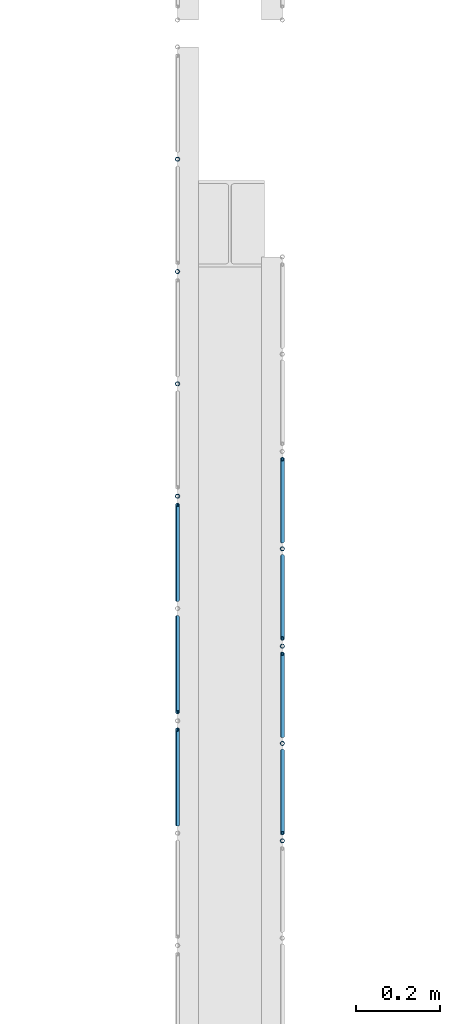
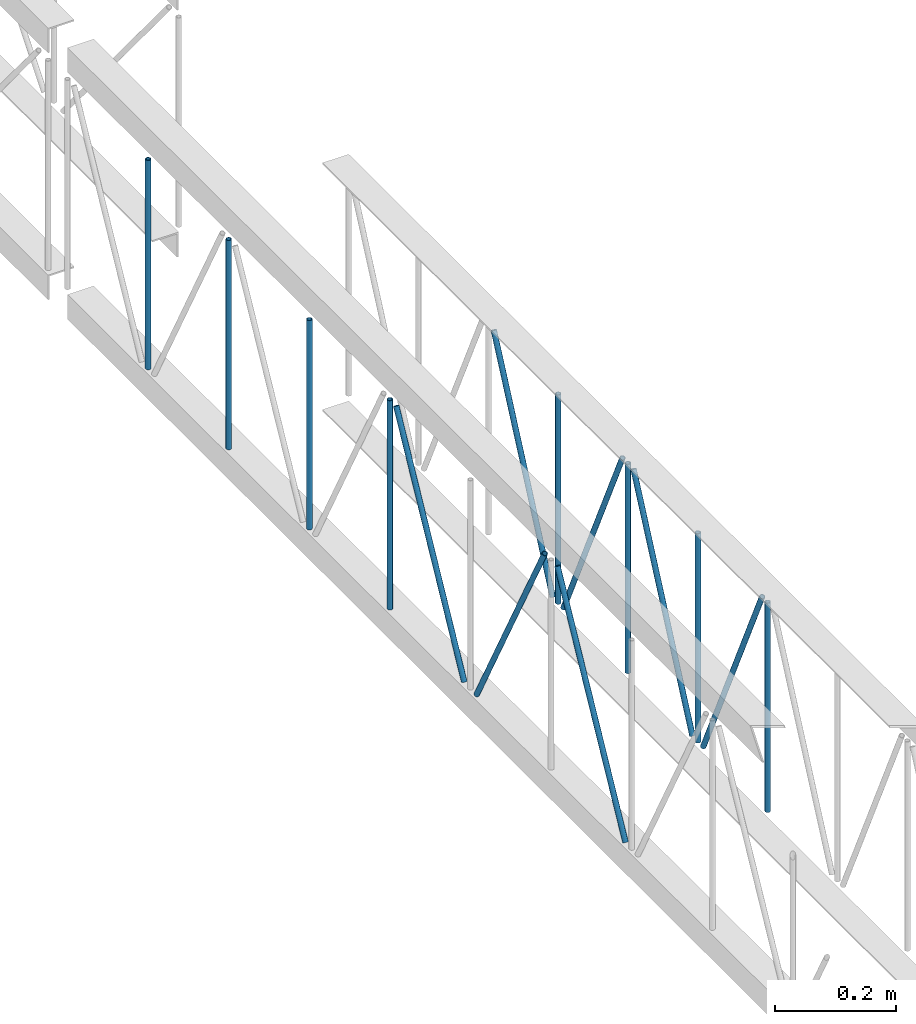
# One storey, part 41 of 153: 15 members, 2 elements without a shape of their own.
"""IFC4 building model written with IfcOpenShell, lengths in metres."""

from ifc_helpers import new_model, entity, si_unit, converted_unit, derived_unit, direction, frame, origin, place, context, subcontext, project, spatial, arc, indexed_curve, outline, extrude, source, transform, mapped, material, type_object, type_shapes, element, aggregate, save


model = new_model("IFC4")

# Units and contexts
model_context = context("Model", 3, precision=1e-05, world=origin(), true_north=direction((6.123031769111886e-17, 1.0)))
body_context = subcontext(model_context, "Body", "Model", "MODEL_VIEW")
ifc_project = project(units=[si_unit("LENGTHUNIT", "METRE"), si_unit("AREAUNIT", "SQUARE_METRE"), si_unit("VOLUMEUNIT", "CUBIC_METRE"), converted_unit("PLANEANGLEUNIT", "DEGREE", entity("IfcRatioMeasure", 0.017453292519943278), si_unit("PLANEANGLEUNIT", "RADIAN"), dimensions=[0, 0, 0, 0, 0, 0, 0]), si_unit("MASSUNIT", "GRAM", prefix="KILO"), derived_unit("MASSDENSITYUNIT", [(si_unit("MASSUNIT", "GRAM", prefix="KILO"), 1), (si_unit("LENGTHUNIT", "METRE"), -3)]), derived_unit("MOMENTOFINERTIAUNIT", [(si_unit("LENGTHUNIT", "METRE"), 4)]), si_unit("TIMEUNIT", "SECOND"), si_unit("FREQUENCYUNIT", "HERTZ"), si_unit("THERMODYNAMICTEMPERATUREUNIT", "DEGREE_CELSIUS"), derived_unit("THERMALTRANSMITTANCEUNIT", [(si_unit("MASSUNIT", "GRAM", prefix="KILO"), 1), (si_unit("THERMODYNAMICTEMPERATUREUNIT", "KELVIN"), -1), (si_unit("TIMEUNIT", "SECOND"), -3)]), derived_unit("VOLUMETRICFLOWRATEUNIT", [(si_unit("LENGTHUNIT", "METRE"), 3), (si_unit("TIMEUNIT", "SECOND"), -1)]), derived_unit("MASSFLOWRATEUNIT", [(si_unit("MASSUNIT", "GRAM", prefix="KILO"), 1), (si_unit("TIMEUNIT", "SECOND"), -1)]), derived_unit("ROTATIONALFREQUENCYUNIT", [(si_unit("TIMEUNIT", "SECOND"), -1)]), si_unit("ELECTRICCURRENTUNIT", "AMPERE"), si_unit("ELECTRICVOLTAGEUNIT", "VOLT"), si_unit("POWERUNIT", "WATT"), si_unit("FORCEUNIT", "NEWTON", prefix="KILO"), si_unit("ILLUMINANCEUNIT", "LUX"), si_unit("LUMINOUSFLUXUNIT", "LUMEN"), si_unit("LUMINOUSINTENSITYUNIT", "CANDELA"), derived_unit("USERDEFINED", [(si_unit("MASSUNIT", "GRAM", prefix="KILO"), -1), (si_unit("LENGTHUNIT", "METRE"), -2), (si_unit("TIMEUNIT", "SECOND"), 3), (si_unit("LUMINOUSFLUXUNIT", "LUMEN"), 1)]), derived_unit("SOUNDPOWERUNIT", [(si_unit("MASSUNIT", "GRAM", prefix="KILO"), 1), (si_unit("LENGTHUNIT", "METRE"), 2), (si_unit("TIMEUNIT", "SECOND"), -3)]), derived_unit("SOUNDPRESSUREUNIT", [(si_unit("MASSUNIT", "GRAM", prefix="KILO"), 1), (si_unit("LENGTHUNIT", "METRE"), -1), (si_unit("TIMEUNIT", "SECOND"), -2)]), derived_unit("LINEARVELOCITYUNIT", [(si_unit("LENGTHUNIT", "METRE"), 1), (si_unit("TIMEUNIT", "SECOND"), -1)]), si_unit("PRESSUREUNIT", "PASCAL"), derived_unit("USERDEFINED", [(si_unit("LENGTHUNIT", "METRE"), -2), (si_unit("MASSUNIT", "GRAM", prefix="KILO"), 1), (si_unit("TIMEUNIT", "SECOND"), -2)]), derived_unit("LINEARFORCEUNIT", [(si_unit("MASSUNIT", "GRAM", prefix="KILO"), 1), (si_unit("LENGTHUNIT", "METRE"), 1), (si_unit("TIMEUNIT", "SECOND"), -2), (si_unit("LENGTHUNIT", "METRE"), -1)]), derived_unit("PLANARFORCEUNIT", [(si_unit("MASSUNIT", "GRAM", prefix="KILO"), 1), (si_unit("LENGTHUNIT", "METRE"), 1), (si_unit("TIMEUNIT", "SECOND"), -2), (si_unit("LENGTHUNIT", "METRE"), -2)])], contexts=[model_context])

# Site, building, storey
site_placement = place(None, origin())
site = spatial("IfcSite", under=ifc_project, at=site_placement, Name="Superficie", CompositionType="ELEMENT")
building_placement = place(site_placement, origin())
building = spatial("IfcBuilding", under=site, at=building_placement, CompositionType="ELEMENT")
storey_placement = place(building_placement, frame((0.0, 0.0, 3.5999999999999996)))
storey = spatial("IfcBuildingStorey", under=building, at=storey_placement, Name="Nivel 1", CompositionType="ELEMENT", Elevation=3.5999999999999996)

# Assembly, members
assembly_1_placement = place(storey_placement, origin())
assembly_1 = element("IfcElementAssembly", 1, at=assembly_1_placement, inside=storey, Name="Viga de celosia 13:Viga de celosia 13", ObjectType="Viga de celosia 13:Viga de celosia 13", AssemblyPlace="NOTDEFINED", PredefinedType="TRUSS")
ifc_material = material(Name="Metal - Calibre delgado", Category="Metal")
member_type_1 = type_object("IfcMemberType", Name="HSS-Tubo estructural redondo:HSS 0.01", PredefinedType="BRACE", material=ifc_material)
shared_shape_1 = source(origin(), body_context, "Body", "SweptSolid", [
    extrude(outline(indexed_curve([(-0.005000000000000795, 7.502054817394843e-18), (-9.800269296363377e-18, -0.005000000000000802), (0.005000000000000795, -7.502054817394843e-18), (8.07772287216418e-18, 0.005000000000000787)], segments=[arc(1, 2, 3), arc(3, 4, 1)], self_intersect=False), holes=[indexed_curve([(0.003999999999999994, 7.222511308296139e-17), (6.910645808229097e-17, -0.004000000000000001), (-0.003999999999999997, -1.8650054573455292e-17), (-2.9156497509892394e-17, 0.003999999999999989)], segments=[arc(1, 2, 3), arc(3, 4, 1)], self_intersect=False)]), frame((-0.21200000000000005, 0.0, 0.0), z_axis=(1.0, 0.0, 0.0), x_axis=(0.0, 1.0, 0.0)), (0.0, 0.0, 1.0), 0.4240000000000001),
])
type_shapes(member_type_1, [shared_shape_1])
member_1_placement = place(assembly_1_placement, frame((-3.913200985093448, -10.268502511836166, 0.25), z_axis=(0.0, 1.0, 0.0), x_axis=(0.0, 0.0, 1.0)))
member_1 = element("IfcMember", 2, at=member_1_placement, type_object=member_type_1, material=ifc_material, Name="HSS-Tubo estructural redondo:HSS 0.01", ObjectType="HSS-Tubo estructural redondo:HSS 0.01", PredefinedType="BRACE", context=body_context, shape_type="MappedRepresentation", body=[
    mapped(shared_shape_1, transform((0.0, 0.0, 0.0), scale=1.0)),
])
member_2_placement = place(assembly_1_placement, frame((-3.913200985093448, -10.001002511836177, 0.25), z_axis=(0.0, 1.0, 0.0), x_axis=(0.0, 0.0, 1.0)))
member_2 = element("IfcMember", 3, at=member_2_placement, type_object=member_type_1, material=ifc_material, Name="HSS-Tubo estructural redondo:HSS 0.01", ObjectType="HSS-Tubo estructural redondo:HSS 0.01", PredefinedType="BRACE", context=body_context, shape_type="MappedRepresentation", body=[
    mapped(shared_shape_1, transform((0.0, 0.0, 0.0), scale=1.0)),
])
member_3_placement = place(assembly_1_placement, frame((-3.9132009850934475, -9.733502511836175, 0.25), z_axis=(0.0, 1.0, 0.0), x_axis=(0.0, 0.0, 1.0)))
member_3 = element("IfcMember", 4, at=member_3_placement, type_object=member_type_1, material=ifc_material, Name="HSS-Tubo estructural redondo:HSS 0.01", ObjectType="HSS-Tubo estructural redondo:HSS 0.01", PredefinedType="BRACE", context=body_context, shape_type="MappedRepresentation", body=[
    mapped(shared_shape_1, transform((0.0, 0.0, 0.0), scale=1.0)),
])
member_4_placement = place(assembly_1_placement, frame((-3.913200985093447, -9.466002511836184, 0.25), z_axis=(0.0, 1.0, 0.0), x_axis=(0.0, 0.0, 1.0)))
member_4 = element("IfcMember", 5, at=member_4_placement, type_object=member_type_1, material=ifc_material, Name="HSS-Tubo estructural redondo:HSS 0.01", ObjectType="HSS-Tubo estructural redondo:HSS 0.01", PredefinedType="BRACE", context=body_context, shape_type="MappedRepresentation", body=[
    mapped(shared_shape_1, transform((0.0, 0.0, 0.0), scale=1.0)),
])

assembly_2_placement = place(storey_placement, origin())
assembly_2 = element("IfcElementAssembly", 6, at=assembly_2_placement, inside=storey, Name="Viga de celosia 13:Viga de celosia 13", ObjectType="Viga de celosia 13:Viga de celosia 13", AssemblyPlace="NOTDEFINED", PredefinedType="TRUSS")
member_type_2 = type_object("IfcMemberType", Name="HSS-Tubo estructural redondo:HSS 0.01", PredefinedType="BRACE", material=ifc_material)
shared_shape_2 = source(origin(), body_context, "Body", "SweptSolid", [
    extrude(outline(indexed_curve([(-0.005000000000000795, 2.0824731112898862e-17), (-2.3122945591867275e-17, -0.005000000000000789), (0.005000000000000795, -2.08247311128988e-17), (2.14003991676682e-17, 0.005000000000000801)], segments=[arc(1, 2, 3), arc(3, 4, 1)], self_intersect=False), holes=[indexed_curve([(0.003999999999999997, -1.3094283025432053e-17), (-1.531427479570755e-18, -0.003999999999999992), (-0.004, 4.0098531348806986e-17), (4.1481388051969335e-17, 0.0039999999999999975)], segments=[arc(1, 2, 3), arc(3, 4, 1)], self_intersect=False)]), frame((-0.21200000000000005, 0.0, 0.0), z_axis=(1.0, 0.0, 0.0), x_axis=(0.0, -1.0, 0.0)), (0.0, 0.0, 1.0), 0.4240000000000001),
])
type_shapes(member_type_2, [shared_shape_2])
member_5_placement = place(assembly_2_placement, frame((-3.663200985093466, -11.089216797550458, 0.25), z_axis=(0.0, 1.0, 0.0), x_axis=(0.0, 0.0, 1.0)))
member_5 = element("IfcMember", 7, at=member_5_placement, type_object=member_type_2, material=ifc_material, Name="HSS-Tubo estructural redondo:HSS 0.01", ObjectType="HSS-Tubo estructural redondo:HSS 0.01", PredefinedType="BRACE", context=body_context, shape_type="MappedRepresentation", body=[
    mapped(shared_shape_2, transform((0.0, 0.0, 0.0), scale=1.0)),
])
member_6_placement = place(assembly_2_placement, frame((-3.6632009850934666, -10.857431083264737, 0.25), z_axis=(0.0, 1.0, 0.0), x_axis=(0.0, 0.0, 1.0)))
member_6 = element("IfcMember", 8, at=member_6_placement, type_object=member_type_2, material=ifc_material, Name="HSS-Tubo estructural redondo:HSS 0.01", ObjectType="HSS-Tubo estructural redondo:HSS 0.01", PredefinedType="BRACE", context=body_context, shape_type="MappedRepresentation", body=[
    mapped(shared_shape_2, transform((0.0, 0.0, 0.0), scale=1.0)),
])
member_7_placement = place(assembly_2_placement, frame((-3.6632009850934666, -10.625645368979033, 0.25), z_axis=(0.0, 1.0, 0.0), x_axis=(0.0, 0.0, 1.0)))
member_7 = element("IfcMember", 9, at=member_7_placement, type_object=member_type_2, material=ifc_material, Name="HSS-Tubo estructural redondo:HSS 0.01", ObjectType="HSS-Tubo estructural redondo:HSS 0.01", PredefinedType="BRACE", context=body_context, shape_type="MappedRepresentation", body=[
    mapped(shared_shape_2, transform((0.0, 0.0, 0.0), scale=1.0)),
])
member_8_placement = place(assembly_2_placement, frame((-3.663200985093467, -10.393859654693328, 0.25), z_axis=(0.0, 1.0, 0.0), x_axis=(0.0, 0.0, 1.0)))
member_8 = element("IfcMember", 10, at=member_8_placement, type_object=member_type_2, material=ifc_material, Name="HSS-Tubo estructural redondo:HSS 0.01", ObjectType="HSS-Tubo estructural redondo:HSS 0.01", PredefinedType="BRACE", context=body_context, shape_type="MappedRepresentation", body=[
    mapped(shared_shape_2, transform((0.0, 0.0, 0.0), scale=1.0)),
])

# Member
member_type_3 = type_object("IfcMemberType", Name="HSS-Tubo estructural redondo:HSS 0.01", PredefinedType="BRACE", material=ifc_material)
shared_shape_3 = source(origin(), body_context, "Body", "SweptSolid", [
    extrude(outline(indexed_curve([(-0.005000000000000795, 7.502054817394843e-18), (-9.800269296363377e-18, -0.005000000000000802), (0.005000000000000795, -7.502054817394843e-18), (8.07772287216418e-18, 0.005000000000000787)], segments=[arc(1, 2, 3), arc(3, 4, 1)], self_intersect=False), holes=[indexed_curve([(0.003999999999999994, 7.222511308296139e-17), (6.910645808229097e-17, -0.004000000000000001), (-0.003999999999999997, -1.8650054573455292e-17), (-2.9156497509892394e-17, 0.003999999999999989)], segments=[arc(1, 2, 3), arc(3, 4, 1)], self_intersect=False)]), frame((-0.23950000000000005, 0.0, 0.0), z_axis=(1.0, 0.0, 0.0), x_axis=(0.0, 1.0, 0.0)), (0.0, 0.0, 1.0), 0.4790000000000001),
])
type_shapes(member_type_3, [shared_shape_3])
member_9_placement = place(assembly_1_placement, frame((-3.9132009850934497, -10.937252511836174, 0.2499999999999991), z_axis=(0.0, 0.8817419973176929, -0.4717319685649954), x_axis=(0.0, 0.4717319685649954, 0.8817419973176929)))
member_9 = element("IfcMember", 11, at=member_9_placement, type_object=member_type_3, material=ifc_material, Name="HSS-Tubo estructural redondo:HSS 0.01", ObjectType="HSS-Tubo estructural redondo:HSS 0.01", PredefinedType="BRACE", context=body_context, shape_type="MappedRepresentation", body=[
    mapped(shared_shape_3, transform((0.0, 0.0, 0.0), scale=1.0)),
])

member_10_placement = place(assembly_1_placement, frame((-3.913200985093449, -10.669752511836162, 0.25), z_axis=(0.0, -0.8817419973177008, -0.4717319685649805), x_axis=(0.0, 0.4717319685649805, -0.8817419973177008)))
member_10 = element("IfcMember", 12, at=member_10_placement, type_object=member_type_3, material=ifc_material, Name="HSS-Tubo estructural redondo:HSS 0.01", ObjectType="HSS-Tubo estructural redondo:HSS 0.01", PredefinedType="BRACE", context=body_context, shape_type="MappedRepresentation", body=[
    mapped(shared_shape_3, transform((0.0, 0.0, 0.0), scale=1.0)),
])

member_11_placement = place(assembly_1_placement, frame((-3.913200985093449, -10.402252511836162, 0.25), z_axis=(0.0, 0.8817419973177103, -0.47173196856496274), x_axis=(0.0, 0.47173196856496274, 0.8817419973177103)))
member_11 = element("IfcMember", 13, at=member_11_placement, type_object=member_type_3, material=ifc_material, Name="HSS-Tubo estructural redondo:HSS 0.01", ObjectType="HSS-Tubo estructural redondo:HSS 0.01", PredefinedType="BRACE", context=body_context, shape_type="MappedRepresentation", body=[
    mapped(shared_shape_3, transform((0.0, 0.0, 0.0), scale=1.0)),
])

aggregate(assembly_1, [member_1, member_2, member_3, member_4, member_9, member_10, member_11])

member_type_4 = type_object("IfcMemberType", Name="HSS-Tubo estructural redondo:HSS 0.01", PredefinedType="BRACE", material=ifc_material)
shared_shape_4 = source(origin(), body_context, "Body", "SweptSolid", [
    extrude(outline(indexed_curve([(-0.005000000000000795, 2.0824731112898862e-17), (-2.3122945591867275e-17, -0.005000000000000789), (0.005000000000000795, -2.08247311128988e-17), (2.14003991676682e-17, 0.005000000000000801)], segments=[arc(1, 2, 3), arc(3, 4, 1)], self_intersect=False), holes=[indexed_curve([(0.003999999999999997, -1.3094283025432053e-17), (-1.531427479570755e-18, -0.003999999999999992), (-0.004, 4.0098531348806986e-17), (4.1481388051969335e-17, 0.0039999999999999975)], segments=[arc(1, 2, 3), arc(3, 4, 1)], self_intersect=False)]), frame((-0.2325, 0.0, 0.0), z_axis=(1.0, 0.0, 0.0), x_axis=(0.0, -1.0, 0.0)), (0.0, 0.0, 1.0), 0.465),
])
type_shapes(member_type_4, [shared_shape_4])
member_12_placement = place(assembly_2_placement, frame((-3.6632009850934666, -10.973323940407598, 0.2500000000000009), z_axis=(0.0, -0.9072563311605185, -0.4205781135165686), x_axis=(0.0, 0.4205781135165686, -0.9072563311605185)))
member_12 = element("IfcMember", 14, at=member_12_placement, type_object=member_type_4, material=ifc_material, Name="HSS-Tubo estructural redondo:HSS 0.01", ObjectType="HSS-Tubo estructural redondo:HSS 0.01", PredefinedType="BRACE", context=body_context, shape_type="MappedRepresentation", body=[
    mapped(shared_shape_4, transform((0.0, 0.0, 0.0), scale=1.0)),
])

member_13_placement = place(assembly_2_placement, frame((-3.6632009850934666, -10.741538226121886, 0.25), z_axis=(0.0, 0.9072563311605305, -0.42057811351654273), x_axis=(0.0, 0.42057811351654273, 0.9072563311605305)))
member_13 = element("IfcMember", 15, at=member_13_placement, type_object=member_type_4, material=ifc_material, Name="HSS-Tubo estructural redondo:HSS 0.01", ObjectType="HSS-Tubo estructural redondo:HSS 0.01", PredefinedType="BRACE", context=body_context, shape_type="MappedRepresentation", body=[
    mapped(shared_shape_4, transform((0.0, 0.0, 0.0), scale=1.0)),
])

member_14_placement = place(assembly_2_placement, frame((-3.6632009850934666, -10.509752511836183, 0.25000000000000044), z_axis=(0.0, -0.9072563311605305, -0.42057811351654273), x_axis=(0.0, 0.42057811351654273, -0.9072563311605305)))
member_14 = element("IfcMember", 16, at=member_14_placement, type_object=member_type_4, material=ifc_material, Name="HSS-Tubo estructural redondo:HSS 0.01", ObjectType="HSS-Tubo estructural redondo:HSS 0.01", PredefinedType="BRACE", context=body_context, shape_type="MappedRepresentation", body=[
    mapped(shared_shape_4, transform((0.0, 0.0, 0.0), scale=1.0)),
])

member_15_placement = place(assembly_2_placement, frame((-3.6632009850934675, -10.277966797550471, 0.25), z_axis=(0.0, 0.907256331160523, -0.4205781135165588), x_axis=(0.0, 0.4205781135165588, 0.907256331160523)))
member_15 = element("IfcMember", 17, at=member_15_placement, type_object=member_type_4, material=ifc_material, Name="HSS-Tubo estructural redondo:HSS 0.01", ObjectType="HSS-Tubo estructural redondo:HSS 0.01", PredefinedType="BRACE", context=body_context, shape_type="MappedRepresentation", body=[
    mapped(shared_shape_4, transform((0.0, 0.0, 0.0), scale=1.0)),
])

aggregate(assembly_2, [member_5, member_6, member_7, member_8, member_12, member_13, member_14, member_15])

save(model, "model.ifc")
